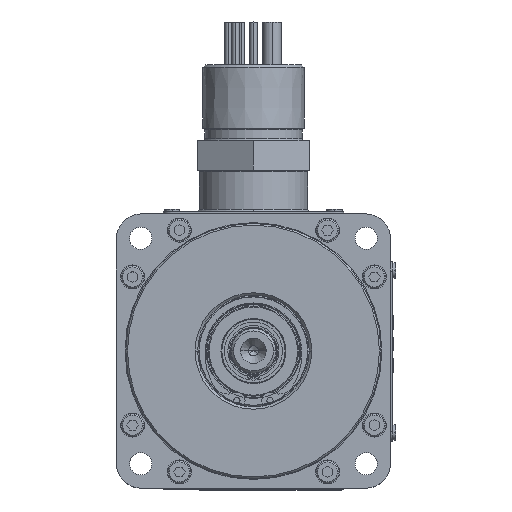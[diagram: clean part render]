
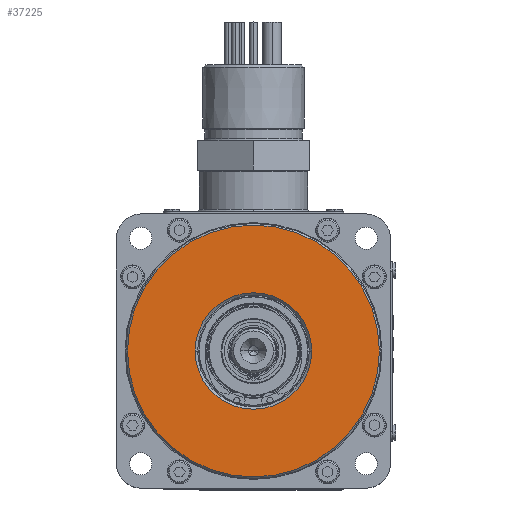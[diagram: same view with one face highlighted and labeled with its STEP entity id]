
A CAD part, top view. The second image highlights one B-rep face of the part: STEP entity #37225.
In plain terms, the highlighted planar face has unit normal (0, 0, 1).
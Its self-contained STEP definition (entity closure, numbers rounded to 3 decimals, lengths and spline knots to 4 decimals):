
#2991 = AXIS2_PLACEMENT_3D ( 'NONE', #16337, #16346, #16347 ) ;
#5995 = EDGE_LOOP ( 'NONE', ( #24363, #24364 ) ) ;
#16334 = PLANE ( 'NONE',  #2991 ) ;
#16337 = CARTESIAN_POINT ( 'NONE',  ( 0., 1.5748, -1.063 ) ) ;
#16346 = DIRECTION ( 'NONE',  ( 0., 0., 1. ) ) ;
#16347 = DIRECTION ( 'NONE',  ( 1., 0., 0. ) ) ;
#24363 = ORIENTED_EDGE ( 'NONE', *, *, #64158, .T. ) ;
#24364 = ORIENTED_EDGE ( 'NONE', *, *, #65672, .T. ) ;
#24365 = ORIENTED_EDGE ( 'NONE', *, *, #65874, .T. ) ;
#24366 = ORIENTED_EDGE ( 'NONE', *, *, #63837, .T. ) ;
#27990 = FACE_OUTER_BOUND ( 'NONE', #5995, .T. ) ;
#28006 = FACE_BOUND ( 'NONE', #41471, .T. ) ;
#37225 = ADVANCED_FACE ( 'NONE', ( #27990, #28006 ), #16334, .T. ) ;
#39641 = AXIS2_PLACEMENT_3D ( 'NONE', #80016, #80017, #80018 ) ;
#39693 = AXIS2_PLACEMENT_3D ( 'NONE', #84484, #84485, #84486 ) ;
#41471 = EDGE_LOOP ( 'NONE', ( #24365, #24366 ) ) ;
#42998 = VERTEX_POINT ( 'NONE', #46929 ) ;
#43000 = VERTEX_POINT ( 'NONE', #46931 ) ;
#43037 = VERTEX_POINT ( 'NONE', #46971 ) ;
#43045 = VERTEX_POINT ( 'NONE', #46978 ) ;
#46929 = CARTESIAN_POINT ( 'NONE',  ( 0.7189, 0., -1.063 ) ) ;
#46931 = CARTESIAN_POINT ( 'NONE',  ( -1.5548, 0., -1.063 ) ) ;
#46971 = CARTESIAN_POINT ( 'NONE',  ( -0.7189, 0., -1.063 ) ) ;
#46978 = CARTESIAN_POINT ( 'NONE',  ( 1.5548, 0., -1.063 ) ) ;
#63837 = EDGE_CURVE ( 'NONE', #43037, #42998, #80967, .T. ) ;
#64158 = EDGE_CURVE ( 'NONE', #43000, #43045, #81242, .T. ) ;
#65672 = EDGE_CURVE ( 'NONE', #43045, #43000, #87889, .T. ) ;
#65874 = EDGE_CURVE ( 'NONE', #42998, #43037, #88014, .T. ) ;
#80016 = CARTESIAN_POINT ( 'NONE',  ( 0., 0., -1.063 ) ) ;
#80017 = DIRECTION ( 'NONE',  ( 0., 0., -1. ) ) ;
#80018 = DIRECTION ( 'NONE',  ( 1., 0., 0. ) ) ;
#80967 = CIRCLE ( 'NONE', #39641, 0.7189 ) ;
#81242 = CIRCLE ( 'NONE', #39693, 1.5548 ) ;
#84484 = CARTESIAN_POINT ( 'NONE',  ( 0., 0., -1.063 ) ) ;
#84485 = DIRECTION ( 'NONE',  ( 0., 0., 1. ) ) ;
#84486 = DIRECTION ( 'NONE',  ( 1., 0., 0. ) ) ;
#86252 = AXIS2_PLACEMENT_3D ( 'NONE', #88943, #88944, #88945 ) ;
#86321 = AXIS2_PLACEMENT_3D ( 'NONE', #89206, #89207, #89208 ) ;
#87889 = CIRCLE ( 'NONE', #86252, 1.5548 ) ;
#88014 = CIRCLE ( 'NONE', #86321, 0.7189 ) ;
#88943 = CARTESIAN_POINT ( 'NONE',  ( 0., 0., -1.063 ) ) ;
#88944 = DIRECTION ( 'NONE',  ( 0., 0., 1. ) ) ;
#88945 = DIRECTION ( 'NONE',  ( 1., 0., 0. ) ) ;
#89206 = CARTESIAN_POINT ( 'NONE',  ( 0., 0., -1.063 ) ) ;
#89207 = DIRECTION ( 'NONE',  ( 0., 0., -1. ) ) ;
#89208 = DIRECTION ( 'NONE',  ( 1., 0., 0. ) ) ;
